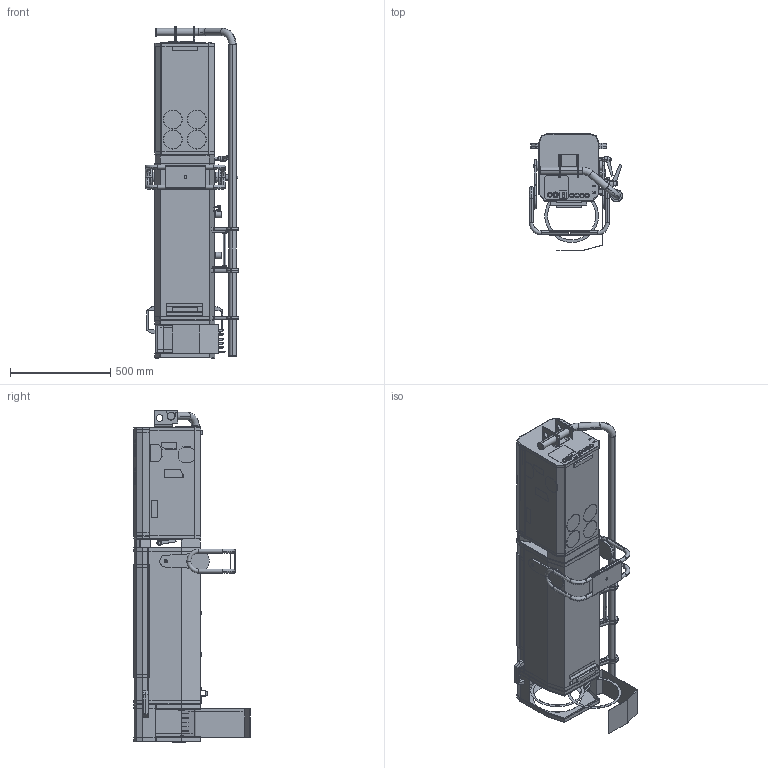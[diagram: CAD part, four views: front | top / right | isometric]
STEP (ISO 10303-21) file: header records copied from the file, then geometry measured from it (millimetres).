
FILE_DESCRIPTION (( 'STEP AP203' ), '1' );
FILE_NAME ('_CAD client_211912 Arthur complet 5-15.STEP', '2020-06-18T13:52:43', ( '' ), ( '' ), 'SwSTEP 2.0', 'SolidWorks 2019', '' );
FILE_SCHEMA (( 'CONFIG_CONTROL_DESIGN' ));
Products named in the file (1): _CAD client_211912 Arthur complet 5-15
Bounding box: 465.91 x 581.48 x 1659.2 mm (x, y, z)
Volume: 5578358.1 mm3; surface area: 7211092.7 mm2
Topology: 89 solids, 89 shells, 2671 faces, 5910 edges, 3491 vertices
Faces by surface type: plane 1805, cylinder 578, bspline 120, cone 85, torus 65, sphere 18
Entity records: 76138 total; most frequent: CARTESIAN_POINT 18031, ORIENTED_EDGE 11820, DIRECTION 11803, EDGE_CURVE 5910, VECTOR 4181, LINE 4181, AXIS2_PLACEMENT_3D 3811, VERTEX_POINT 3491
